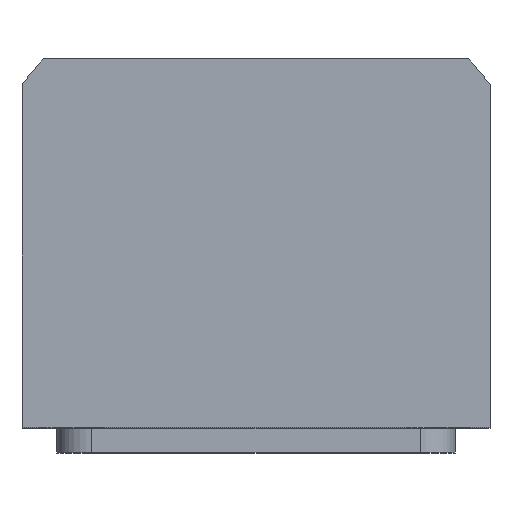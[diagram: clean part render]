
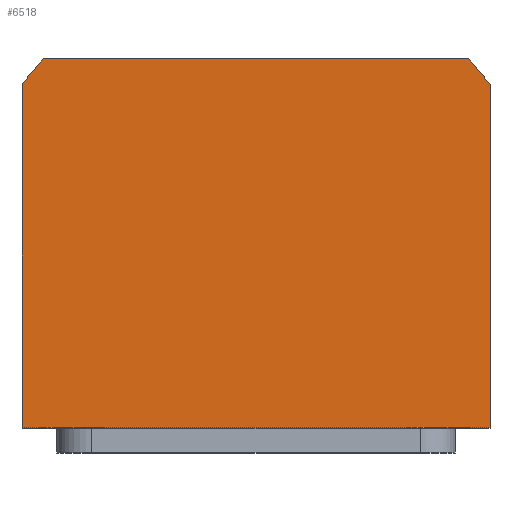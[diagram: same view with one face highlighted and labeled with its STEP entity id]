
A CAD part, top view. The second image highlights one B-rep face of the part: STEP entity #6518.
In plain terms, the highlighted planar face has unit normal (0, 0, 1).
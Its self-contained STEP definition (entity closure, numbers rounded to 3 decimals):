
#164 = ORIENTED_EDGE ( 'NONE', *, *, #14643, .T. ) ;
#444 = EDGE_CURVE ( 'NONE', #8793, #11566, #3970, .T. ) ;
#454 = DIRECTION ( 'NONE',  ( 1., 0., 0. ) ) ;
#499 = ORIENTED_EDGE ( 'NONE', *, *, #4263, .T. ) ;
#886 = FACE_OUTER_BOUND ( 'NONE', #7706, .T. ) ;
#1027 = CARTESIAN_POINT ( 'NONE',  ( -47., -34., 62.5 ) ) ;
#1461 = DIRECTION ( 'NONE',  ( 0., 0., 1. ) ) ;
#1532 = CARTESIAN_POINT ( 'NONE',  ( -42.688, 40., 62.5 ) ) ;
#1574 = CIRCLE ( 'NONE', #4322, 58.5 ) ;
#1974 = VERTEX_POINT ( 'NONE', #13692 ) ;
#1997 = DIRECTION ( 'NONE',  ( 1., 0., 0. ) ) ;
#2858 = CIRCLE ( 'NONE', #14898, 58.5 ) ;
#3970 = LINE ( 'NONE', #11336, #5424 ) ;
#4196 = VERTEX_POINT ( 'NONE', #12946 ) ;
#4263 = EDGE_CURVE ( 'NONE', #5514, #4196, #5632, .T. ) ;
#4322 = AXIS2_PLACEMENT_3D ( 'NONE', #12135, #12089, #454 ) ;
#4708 = DIRECTION ( 'NONE',  ( 0., 0., 1. ) ) ;
#5424 = VECTOR ( 'NONE', #5431, 1000. ) ;
#5431 = DIRECTION ( 'NONE',  ( 0., -1., 0. ) ) ;
#5514 = VERTEX_POINT ( 'NONE', #11871 ) ;
#5632 = LINE ( 'NONE', #13052, #9899 ) ;
#5990 = AXIS2_PLACEMENT_3D ( 'NONE', #8572, #1461, #9664 ) ;
#6333 = CARTESIAN_POINT ( 'NONE',  ( -47., 34.832, 62.5 ) ) ;
#6518 = ADVANCED_FACE ( 'NONE', ( #886 ), #7352, .T. ) ;
#6526 = LINE ( 'NONE', #1532, #11998 ) ;
#7352 = PLANE ( 'NONE',  #5990 ) ;
#7706 = EDGE_LOOP ( 'NONE', ( #164, #499, #11674, #13568, #11758, #12836 ) ) ;
#7901 = EDGE_CURVE ( 'NONE', #4196, #12074, #1574, .T. ) ;
#8319 = EDGE_CURVE ( 'NONE', #12074, #1974, #6526, .T. ) ;
#8572 = CARTESIAN_POINT ( 'NONE',  ( 0., 0., 62.5 ) ) ;
#8793 = VERTEX_POINT ( 'NONE', #6333 ) ;
#9039 = CARTESIAN_POINT ( 'NONE',  ( 42.688, 40., 62.5 ) ) ;
#9538 = DIRECTION ( 'NONE',  ( 0., 1., 0. ) ) ;
#9664 = DIRECTION ( 'NONE',  ( 1., 0., 0. ) ) ;
#9899 = VECTOR ( 'NONE', #9538, 1000. ) ;
#11336 = CARTESIAN_POINT ( 'NONE',  ( -47., -34., 62.5 ) ) ;
#11566 = VERTEX_POINT ( 'NONE', #1027 ) ;
#11674 = ORIENTED_EDGE ( 'NONE', *, *, #7901, .T. ) ;
#11723 = CARTESIAN_POINT ( 'NONE',  ( 0., 0., 62.5 ) ) ;
#11758 = ORIENTED_EDGE ( 'NONE', *, *, #13579, .T. ) ;
#11871 = CARTESIAN_POINT ( 'NONE',  ( 47., -34., 62.5 ) ) ;
#11998 = VECTOR ( 'NONE', #12068, 1000. ) ;
#12068 = DIRECTION ( 'NONE',  ( -1., 0., 0. ) ) ;
#12074 = VERTEX_POINT ( 'NONE', #9039 ) ;
#12089 = DIRECTION ( 'NONE',  ( 0., 0., 1. ) ) ;
#12135 = CARTESIAN_POINT ( 'NONE',  ( 0., 0., 62.5 ) ) ;
#12506 = LINE ( 'NONE', #14672, #14865 ) ;
#12836 = ORIENTED_EDGE ( 'NONE', *, *, #444, .T. ) ;
#12946 = CARTESIAN_POINT ( 'NONE',  ( 47., 34.832, 62.5 ) ) ;
#13052 = CARTESIAN_POINT ( 'NONE',  ( 47., 34.832, 62.5 ) ) ;
#13568 = ORIENTED_EDGE ( 'NONE', *, *, #8319, .T. ) ;
#13579 = EDGE_CURVE ( 'NONE', #1974, #8793, #2858, .T. ) ;
#13692 = CARTESIAN_POINT ( 'NONE',  ( -42.688, 40., 62.5 ) ) ;
#14060 = DIRECTION ( 'NONE',  ( 1., 0., 0. ) ) ;
#14643 = EDGE_CURVE ( 'NONE', #11566, #5514, #12506, .T. ) ;
#14672 = CARTESIAN_POINT ( 'NONE',  ( 47., -34., 62.5 ) ) ;
#14865 = VECTOR ( 'NONE', #1997, 1000. ) ;
#14898 = AXIS2_PLACEMENT_3D ( 'NONE', #11723, #4708, #14060 ) ;
